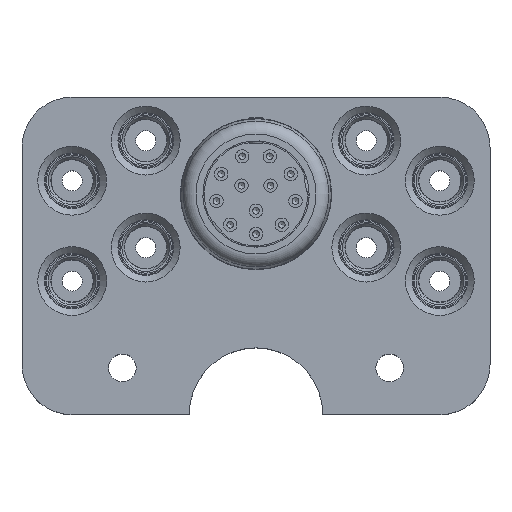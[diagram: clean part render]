
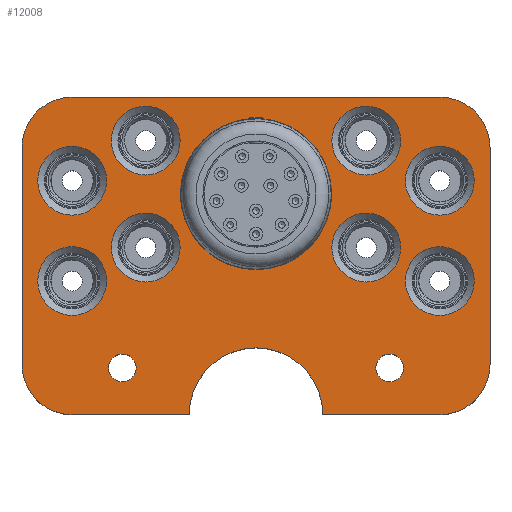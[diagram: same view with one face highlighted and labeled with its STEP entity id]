
A CAD part, top view. The second image highlights one B-rep face of the part: STEP entity #12008.
In plain terms, the highlighted planar face has unit normal (0, 0, 1).
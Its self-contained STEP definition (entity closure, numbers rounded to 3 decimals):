
#11711=CARTESIAN_POINT('',(0.0,21.7,0.));
#11712=VERTEX_POINT('',#11711);
#11713=CARTESIAN_POINT('',(0.0,33.,0.0));
#11714=DIRECTION('',(0.0,0.0,-1.0));
#11715=DIRECTION('',(0.0,-1.0,0.0));
#11716=AXIS2_PLACEMENT_3D('',#11713,#11714,#11715);
#11717=CIRCLE('',#11716,11.3);
#11718=EDGE_CURVE('',#11712,#11712,#11717,.T.);
#11799=CARTESIAN_POINT('',(21.65,41.0,0.0));
#11800=VERTEX_POINT('',#11799);
#11801=CARTESIAN_POINT('',(16.5,41.0,0.0));
#11802=DIRECTION('',(0.0,0.0,1.0));
#11803=DIRECTION('',(-1.0,0.0,0.0));
#11804=AXIS2_PLACEMENT_3D('',#11801,#11802,#11803);
#11805=CIRCLE('',#11804,5.15);
#11806=EDGE_CURVE('',#11800,#11800,#11805,.T.);
#11811=CARTESIAN_POINT('',(0.,23.381,0.0));
#11812=DIRECTION('',(0.0,0.0,1.0));
#11813=DIRECTION('',(1.0,0.0,0.0));
#11814=AXIS2_PLACEMENT_3D('',#11811,#11812,#11813);
#11815=PLANE('',#11814);
#11816=CARTESIAN_POINT('',(27.5,47.5,0.0));
#11817=VERTEX_POINT('',#11816);
#11818=CARTESIAN_POINT('',(35.,40.0,0.0));
#11819=VERTEX_POINT('',#11818);
#11820=CARTESIAN_POINT('',(27.5,40.0,0.0));
#11821=DIRECTION('',(0.0,0.0,-1.));
#11822=DIRECTION('',(0.707,0.707,0.0));
#11823=AXIS2_PLACEMENT_3D('',#11820,#11821,#11822);
#11824=CIRCLE('',#11823,7.5);
#11825=EDGE_CURVE('',#11817,#11819,#11824,.T.);
#11826=ORIENTED_EDGE('',*,*,#11825,.F.);
#11827=CARTESIAN_POINT('',(-27.5,47.5,0.0));
#11828=VERTEX_POINT('',#11827);
#11829=CARTESIAN_POINT('',(27.5,47.5,0.0));
#11830=DIRECTION('',(-1.0,0.0,0.0));
#11831=VECTOR('',#11830,55.0);
#11832=LINE('',#11829,#11831);
#11833=EDGE_CURVE('',#11817,#11828,#11832,.T.);
#11834=ORIENTED_EDGE('',*,*,#11833,.T.);
#11835=CARTESIAN_POINT('',(-35.,40.0,0.0));
#11836=VERTEX_POINT('',#11835);
#11837=CARTESIAN_POINT('',(-27.5,40.0,0.0));
#11838=DIRECTION('',(0.0,0.0,-1.));
#11839=DIRECTION('',(-0.707,0.707,0.0));
#11840=AXIS2_PLACEMENT_3D('',#11837,#11838,#11839);
#11841=CIRCLE('',#11840,7.5);
#11842=EDGE_CURVE('',#11836,#11828,#11841,.T.);
#11843=ORIENTED_EDGE('',*,*,#11842,.F.);
#11844=CARTESIAN_POINT('',(-35.0,7.5,0.0));
#11845=VERTEX_POINT('',#11844);
#11846=CARTESIAN_POINT('',(-35.,40.0,0.0));
#11847=DIRECTION('',(0.0,-1.0,0.0));
#11848=VECTOR('',#11847,32.5);
#11849=LINE('',#11846,#11848);
#11850=EDGE_CURVE('',#11836,#11845,#11849,.T.);
#11851=ORIENTED_EDGE('',*,*,#11850,.T.);
#11852=CARTESIAN_POINT('',(-27.5,0.,0.0));
#11853=VERTEX_POINT('',#11852);
#11854=CARTESIAN_POINT('',(-27.5,7.5,0.0));
#11855=DIRECTION('',(0.0,0.0,-1.0));
#11856=DIRECTION('',(-0.707,-0.707,0.0));
#11857=AXIS2_PLACEMENT_3D('',#11854,#11855,#11856);
#11858=CIRCLE('',#11857,7.5);
#11859=EDGE_CURVE('',#11853,#11845,#11858,.T.);
#11860=ORIENTED_EDGE('',*,*,#11859,.F.);
#11861=CARTESIAN_POINT('',(-10.0,0.,0.0));
#11862=VERTEX_POINT('',#11861);
#11863=CARTESIAN_POINT('',(-27.5,0.,0.0));
#11864=DIRECTION('',(1.0,0.0,0.0));
#11865=VECTOR('',#11864,17.5);
#11866=LINE('',#11863,#11865);
#11867=EDGE_CURVE('',#11853,#11862,#11866,.T.);
#11868=ORIENTED_EDGE('',*,*,#11867,.T.);
#11869=CARTESIAN_POINT('',(10.0,0.,0.0));
#11870=VERTEX_POINT('',#11869);
#11871=CARTESIAN_POINT('',(0.0,0.0,0.0));
#11872=DIRECTION('',(0.0,0.0,-1.0));
#11873=DIRECTION('',(-1.0,0.0,0.0));
#11874=AXIS2_PLACEMENT_3D('',#11871,#11872,#11873);
#11875=CIRCLE('',#11874,10.0);
#11876=EDGE_CURVE('',#11862,#11870,#11875,.T.);
#11877=ORIENTED_EDGE('',*,*,#11876,.T.);
#11878=CARTESIAN_POINT('',(27.5,0.,0.0));
#11879=VERTEX_POINT('',#11878);
#11880=CARTESIAN_POINT('',(10.0,0.,0.0));
#11881=DIRECTION('',(1.0,0.0,0.0));
#11882=VECTOR('',#11881,17.5);
#11883=LINE('',#11880,#11882);
#11884=EDGE_CURVE('',#11870,#11879,#11883,.T.);
#11885=ORIENTED_EDGE('',*,*,#11884,.T.);
#11886=CARTESIAN_POINT('',(35.0,7.5,0.0));
#11887=VERTEX_POINT('',#11886);
#11888=CARTESIAN_POINT('',(27.5,7.5,0.0));
#11889=DIRECTION('',(0.0,0.0,-1.0));
#11890=DIRECTION('',(0.707,-0.707,0.0));
#11891=AXIS2_PLACEMENT_3D('',#11888,#11889,#11890);
#11892=CIRCLE('',#11891,7.5);
#11893=EDGE_CURVE('',#11887,#11879,#11892,.T.);
#11894=ORIENTED_EDGE('',*,*,#11893,.F.);
#11895=CARTESIAN_POINT('',(35.0,7.5,0.0));
#11896=DIRECTION('',(0.0,1.0,0.0));
#11897=VECTOR('',#11896,32.5);
#11898=LINE('',#11895,#11897);
#11899=EDGE_CURVE('',#11887,#11819,#11898,.T.);
#11900=ORIENTED_EDGE('',*,*,#11899,.T.);
#11901=EDGE_LOOP('',(#11826,#11834,#11843,#11851,#11860,#11868,#11877,#11885,#11894,#11900));
#11902=FACE_OUTER_BOUND('',#11901,.T.);
#11903=ORIENTED_EDGE('',*,*,#11718,.T.);
#11904=EDGE_LOOP('',(#11903));
#11905=FACE_BOUND('',#11904,.T.);
#11906=CARTESIAN_POINT('',(21.65,25.0,0.0));
#11907=VERTEX_POINT('',#11906);
#11908=CARTESIAN_POINT('',(16.5,25.0,0.0));
#11909=DIRECTION('',(0.0,0.0,1.0));
#11910=DIRECTION('',(-1.0,0.0,0.0));
#11911=AXIS2_PLACEMENT_3D('',#11908,#11909,#11910);
#11912=CIRCLE('',#11911,5.15);
#11913=EDGE_CURVE('',#11907,#11907,#11912,.T.);
#11914=ORIENTED_EDGE('',*,*,#11913,.F.);
#11915=EDGE_LOOP('',(#11914));
#11916=FACE_BOUND('',#11915,.T.);
#11917=CARTESIAN_POINT('',(32.65,20.,0.0));
#11918=VERTEX_POINT('',#11917);
#11919=CARTESIAN_POINT('',(27.5,20.,0.0));
#11920=DIRECTION('',(0.0,0.0,1.0));
#11921=DIRECTION('',(-1.0,0.0,0.0));
#11922=AXIS2_PLACEMENT_3D('',#11919,#11920,#11921);
#11923=CIRCLE('',#11922,5.15);
#11924=EDGE_CURVE('',#11918,#11918,#11923,.T.);
#11925=ORIENTED_EDGE('',*,*,#11924,.F.);
#11926=EDGE_LOOP('',(#11925));
#11927=FACE_BOUND('',#11926,.T.);
#11928=CARTESIAN_POINT('',(32.65,35.0,0.0));
#11929=VERTEX_POINT('',#11928);
#11930=CARTESIAN_POINT('',(27.5,35.0,0.0));
#11931=DIRECTION('',(0.0,0.0,1.0));
#11932=DIRECTION('',(-1.0,0.0,0.0));
#11933=AXIS2_PLACEMENT_3D('',#11930,#11931,#11932);
#11934=CIRCLE('',#11933,5.15);
#11935=EDGE_CURVE('',#11929,#11929,#11934,.T.);
#11936=ORIENTED_EDGE('',*,*,#11935,.F.);
#11937=EDGE_LOOP('',(#11936));
#11938=FACE_BOUND('',#11937,.T.);
#11939=CARTESIAN_POINT('',(-22.35,35.0,0.0));
#11940=VERTEX_POINT('',#11939);
#11941=CARTESIAN_POINT('',(-27.5,35.0,0.0));
#11942=DIRECTION('',(0.0,0.0,1.0));
#11943=DIRECTION('',(-1.0,0.0,0.0));
#11944=AXIS2_PLACEMENT_3D('',#11941,#11942,#11943);
#11945=CIRCLE('',#11944,5.15);
#11946=EDGE_CURVE('',#11940,#11940,#11945,.T.);
#11947=ORIENTED_EDGE('',*,*,#11946,.F.);
#11948=EDGE_LOOP('',(#11947));
#11949=FACE_BOUND('',#11948,.T.);
#11950=CARTESIAN_POINT('',(22.067,7.,0.0));
#11951=VERTEX_POINT('',#11950);
#11952=CARTESIAN_POINT('',(20.0,7.,0.0));
#11953=DIRECTION('',(0.0,0.0,-1.0));
#11954=DIRECTION('',(1.0,0.0,0.0));
#11955=AXIS2_PLACEMENT_3D('',#11952,#11953,#11954);
#11956=CIRCLE('',#11955,2.067);
#11957=EDGE_CURVE('',#11951,#11951,#11956,.T.);
#11958=ORIENTED_EDGE('',*,*,#11957,.T.);
#11959=EDGE_LOOP('',(#11958));
#11960=FACE_BOUND('',#11959,.T.);
#11961=CARTESIAN_POINT('',(-17.933,7.,0.0));
#11962=VERTEX_POINT('',#11961);
#11963=CARTESIAN_POINT('',(-20.0,7.,0.0));
#11964=DIRECTION('',(0.0,0.0,-1.0));
#11965=DIRECTION('',(1.0,0.0,0.0));
#11966=AXIS2_PLACEMENT_3D('',#11963,#11964,#11965);
#11967=CIRCLE('',#11966,2.067);
#11968=EDGE_CURVE('',#11962,#11962,#11967,.T.);
#11969=ORIENTED_EDGE('',*,*,#11968,.T.);
#11970=EDGE_LOOP('',(#11969));
#11971=FACE_BOUND('',#11970,.T.);
#11972=CARTESIAN_POINT('',(-22.35,20.0,0.0));
#11973=VERTEX_POINT('',#11972);
#11974=CARTESIAN_POINT('',(-27.5,20.0,0.0));
#11975=DIRECTION('',(0.0,0.0,1.0));
#11976=DIRECTION('',(-1.0,0.0,0.0));
#11977=AXIS2_PLACEMENT_3D('',#11974,#11975,#11976);
#11978=CIRCLE('',#11977,5.15);
#11979=EDGE_CURVE('',#11973,#11973,#11978,.T.);
#11980=ORIENTED_EDGE('',*,*,#11979,.F.);
#11981=EDGE_LOOP('',(#11980));
#11982=FACE_BOUND('',#11981,.T.);
#11983=CARTESIAN_POINT('',(-11.35,25.0,0.0));
#11984=VERTEX_POINT('',#11983);
#11985=CARTESIAN_POINT('',(-16.5,25.0,0.0));
#11986=DIRECTION('',(0.0,0.0,1.0));
#11987=DIRECTION('',(-1.0,0.0,0.0));
#11988=AXIS2_PLACEMENT_3D('',#11985,#11986,#11987);
#11989=CIRCLE('',#11988,5.15);
#11990=EDGE_CURVE('',#11984,#11984,#11989,.T.);
#11991=ORIENTED_EDGE('',*,*,#11990,.F.);
#11992=EDGE_LOOP('',(#11991));
#11993=FACE_BOUND('',#11992,.T.);
#11994=CARTESIAN_POINT('',(-11.35,41.,0.0));
#11995=VERTEX_POINT('',#11994);
#11996=CARTESIAN_POINT('',(-16.5,41.,0.0));
#11997=DIRECTION('',(0.0,0.0,1.0));
#11998=DIRECTION('',(-1.0,0.0,0.0));
#11999=AXIS2_PLACEMENT_3D('',#11996,#11997,#11998);
#12000=CIRCLE('',#11999,5.15);
#12001=EDGE_CURVE('',#11995,#11995,#12000,.T.);
#12002=ORIENTED_EDGE('',*,*,#12001,.F.);
#12003=EDGE_LOOP('',(#12002));
#12004=FACE_BOUND('',#12003,.T.);
#12005=ORIENTED_EDGE('',*,*,#11806,.F.);
#12006=EDGE_LOOP('',(#12005));
#12007=FACE_BOUND('',#12006,.T.);
#12008=ADVANCED_FACE('',(#11902,#11905,#11916,#11927,#11938,#11949,#11960,#11971,#11982,#11993,#12004,#12007),#11815,.T.);
